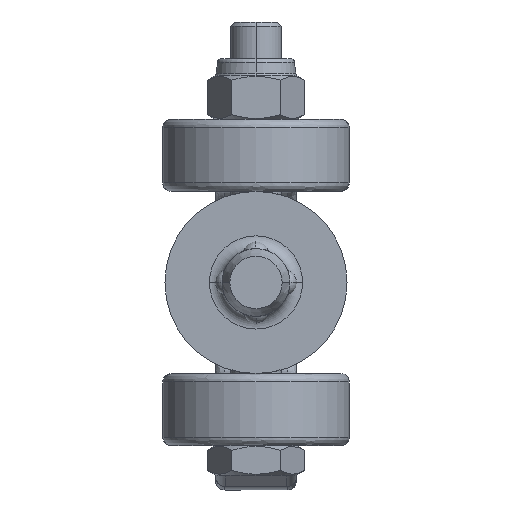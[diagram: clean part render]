
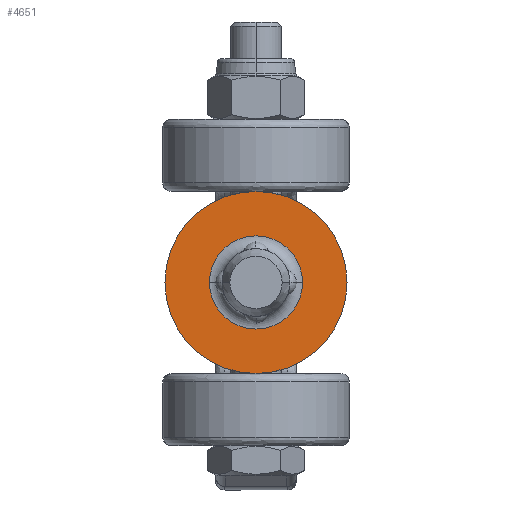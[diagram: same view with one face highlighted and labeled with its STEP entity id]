
A CAD part, front view. The second image highlights one B-rep face of the part: STEP entity #4651.
In plain terms, the highlighted planar face has unit normal (0, -1, 0) as drawn and (-1, 0, 0) by its records, which use the part's own axes.
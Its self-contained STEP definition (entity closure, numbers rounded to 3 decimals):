
#813 = AXIS2_PLACEMENT_3D ( 'NONE', #9315, #2676, #9218 ) ;
#1184 = AXIS2_PLACEMENT_3D ( 'NONE', #7505, #9030, #6096 ) ;
#1308 = CARTESIAN_POINT ( 'NONE',  ( 0., 0., 10.75 ) ) ;
#1639 = CARTESIAN_POINT ( 'NONE',  ( 0., 0., 0. ) ) ;
#2033 = PLANE ( 'NONE',  #3419 ) ;
#2157 = EDGE_CURVE ( 'NONE', #4799, #4409, #9034, .T. ) ;
#2455 = EDGE_LOOP ( 'NONE', ( #7016, #7082 ) ) ;
#2551 = CIRCLE ( 'NONE', #813, 10.75 ) ;
#2676 = DIRECTION ( 'NONE',  ( 1., 0., 0. ) ) ;
#2851 = VERTEX_POINT ( 'NONE', #1308 ) ;
#3338 = ORIENTED_EDGE ( 'NONE', *, *, #9228, .F. ) ;
#3419 = AXIS2_PLACEMENT_3D ( 'NONE', #5152, #5052, #9746 ) ;
#3491 = EDGE_CURVE ( 'NONE', #2851, #4206, #4972, .T. ) ;
#4206 = VERTEX_POINT ( 'NONE', #8691 ) ;
#4243 = CIRCLE ( 'NONE', #8929, 5.5 ) ;
#4409 = VERTEX_POINT ( 'NONE', #8140 ) ;
#4651 = ADVANCED_FACE ( 'NONE', ( #7497, #6616 ), #2033, .F. ) ;
#4799 = VERTEX_POINT ( 'NONE', #9164 ) ;
#4972 = CIRCLE ( 'NONE', #1184, 10.75 ) ;
#5052 = DIRECTION ( 'NONE',  ( 1., 0., 0. ) ) ;
#5152 = CARTESIAN_POINT ( 'NONE',  ( 0., 6.5, 0. ) ) ;
#5385 = DIRECTION ( 'NONE',  ( -1., 0., 0. ) ) ;
#5873 = ORIENTED_EDGE ( 'NONE', *, *, #3491, .F. ) ;
#5940 = DIRECTION ( 'NONE',  ( 0., -1., 0. ) ) ;
#5974 = DIRECTION ( 'NONE',  ( 0., -1., 0. ) ) ;
#6096 = DIRECTION ( 'NONE',  ( 0., 0., 1. ) ) ;
#6616 = FACE_BOUND ( 'NONE', #2455, .T. ) ;
#7013 = EDGE_LOOP ( 'NONE', ( #5873, #3338 ) ) ;
#7016 = ORIENTED_EDGE ( 'NONE', *, *, #2157, .F. ) ;
#7082 = ORIENTED_EDGE ( 'NONE', *, *, #7495, .F. ) ;
#7495 = EDGE_CURVE ( 'NONE', #4409, #4799, #4243, .T. ) ;
#7497 = FACE_OUTER_BOUND ( 'NONE', #7013, .T. ) ;
#7505 = CARTESIAN_POINT ( 'NONE',  ( 0., 0., 0. ) ) ;
#8137 = DIRECTION ( 'NONE',  ( -1., 0., 0. ) ) ;
#8140 = CARTESIAN_POINT ( 'NONE',  ( 0., 5.5, 0. ) ) ;
#8691 = CARTESIAN_POINT ( 'NONE',  ( 0., 0., -10.75 ) ) ;
#8874 = AXIS2_PLACEMENT_3D ( 'NONE', #9607, #8137, #5940 ) ;
#8929 = AXIS2_PLACEMENT_3D ( 'NONE', #1639, #5385, #5974 ) ;
#9030 = DIRECTION ( 'NONE',  ( 1., 0., 0. ) ) ;
#9034 = CIRCLE ( 'NONE', #8874, 5.5 ) ;
#9164 = CARTESIAN_POINT ( 'NONE',  ( 0., -5.5, 0. ) ) ;
#9218 = DIRECTION ( 'NONE',  ( 0., 0., 1. ) ) ;
#9228 = EDGE_CURVE ( 'NONE', #4206, #2851, #2551, .T. ) ;
#9315 = CARTESIAN_POINT ( 'NONE',  ( 0., 0., 0. ) ) ;
#9607 = CARTESIAN_POINT ( 'NONE',  ( 0., 0., 0. ) ) ;
#9746 = DIRECTION ( 'NONE',  ( 0., 0., -1. ) ) ;
